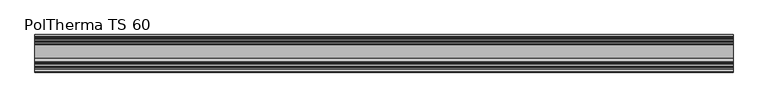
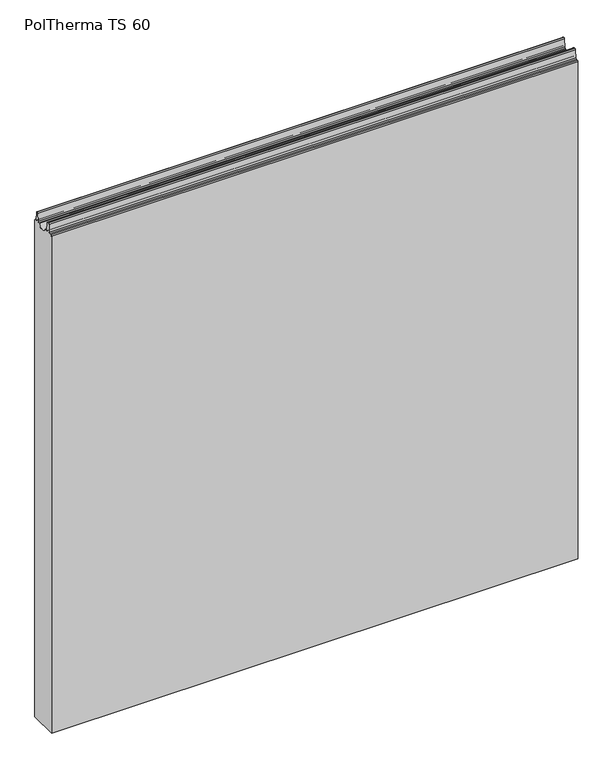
"""IFC4 building model written with IfcOpenShell, lengths in millimetres: plate geometry, Europanels_Poltherma TS_Hz : PolTherma TS 60."""

from ifc_helpers import new_model, si_unit, frame, origin, place, context, project, spatial, polyline, circle_curve, source, transform, mapped, element, save
from ifc_brep_helpers import plane_surface, cylinder_surface, revolved_surface, advanced_brep


def poltherma_ts_60_b4611f67(model_context):
    return source(origin(), model_context, "Body", "AdvancedBrep", [
        advanced_brep(
        [(550.0, -30.0, 1096.5011047), (550.0, -30.0, 0.0), (550.0, 30.0, 0.0), (550.0, 30.0, 1096.5011047), (550.0, 28.0, 1098.5011047), (550.0, 26.2557869, 1098.5011047), (550.0, 24.2596673, 1100.3765791), (550.0, 23.1836057, 1117.6256302), (550.0, 20.8891901, 1119.5129093), (550.0, 18.8727407, 1117.5838246), (550.0, 18.1120505, 1100.4152514), (550.0, 16.113894, 1098.5011047), (550.0, 13.3234285, 1098.5011047), (550.0, -7.9234285, 1098.5011047), (550.0, -11.9117672, 1098.5011047), (550.0, -13.7101357, 1100.2244834), (550.0, -14.4498501, 1117.5862394), (550.0, -16.4480373, 1119.5011047), (550.0, -19.1874198, 1119.5011047), (550.0, -21.1836192, 1117.624345), (550.0, -22.2483736, 1100.3778643), (550.0, -24.244573, 1098.5011047), (550.0, -28.0, 1098.5011047), (-550.0, -30.0, 1096.5011047), (-550.0, -28.0, 1098.5011047), (-550.0, -24.244573, 1098.5011047), (-550.0, -22.2483736, 1100.3778643), (-550.0, -21.1836192, 1117.624345), (-550.0, -19.1874198, 1119.5011047), (-550.0, -16.4480373, 1119.5011047), (-550.0, -14.4498501, 1117.5862394), (-550.0, -13.7101357, 1100.2244834), (-550.0, -11.9117672, 1098.5011047), (-550.0, -7.9234285, 1098.5011047), (-550.0, 13.3234285, 1098.5011047), (-550.0, 16.113894, 1098.5011047), (-550.0, 18.1120505, 1100.4152514), (-550.0, 18.8727407, 1117.5838246), (-550.0, 20.8891901, 1119.5129093), (-550.0, 23.1349611, 1117.6366155), (-550.0, 24.2596673, 1100.3765791), (-550.0, 26.2557869, 1098.5011047), (-550.0, 28.0, 1098.5011047), (-550.0, 30.0, 1096.5011047), (-550.0, 30.0, 0.0), (-550.0, -30.0, 0.0)],
        [
            (0, 1),
            (1, 2),
            (2, 3),
            (3, 4, circle_curve(frame((550.0, 28.0, 1096.5011047), z_axis=(1.0, 0.0, 0.0), x_axis=(0.0, 1.0, 0.0)), 2.0)),
            (4, 5),
            (5, 6, circle_curve(frame((550.0, 26.2557869, 1100.5011047), z_axis=(-1.0, 0.0, 0.0), x_axis=(0.0, 1.0, 0.0)), 2.0)),
            (6, 7),
            (7, 8, circle_curve(frame((550.0, 21.1234323, 1117.5111287), z_axis=(1.0, 0.0, 0.0), x_axis=(0.0, 1.0, 0.0)), 2.0154391)),
            (8, 9, circle_curve(frame((550.0, 20.8891901, 1117.4944815), z_axis=(1.0, 0.0, 0.0), x_axis=(0.0, 1.0, 0.0)), 2.0184277)),
            (9, 10),
            (10, 11, circle_curve(frame((550.0, 16.113894, 1100.5011047), z_axis=(-1.0, 0.0, 0.0), x_axis=(0.0, 1.0, 0.0)), 2.0)),
            (11, 12),
            (12, 13, circle_curve(frame((550.0, 2.7, 1101.354658), z_axis=(-1.0, 0.0, 0.0), x_axis=(0.0, 1.0, 0.0)), 11.0)),
            (13, 14),
            (14, 15, circle_curve(frame((550.0, -11.9117672, 1100.3011047), z_axis=(-1.0, 0.0, 0.0), x_axis=(0.0, 1.0, 0.0)), 1.8)),
            (15, 16),
            (16, 17, circle_curve(frame((550.0, -16.4480373, 1117.5011047), z_axis=(1.0, 0.0, 0.0), x_axis=(0.0, 1.0, 0.0)), 2.0)),
            (17, 18),
            (18, 19, circle_curve(frame((550.0, -19.1874198, 1117.5011047), z_axis=(1.0, 0.0, 0.0), x_axis=(0.0, 1.0, 0.0)), 2.0)),
            (19, 20),
            (20, 21, circle_curve(frame((550.0, -24.244573, 1100.5011047), z_axis=(-1.0, 0.0, 0.0), x_axis=(0.0, 1.0, 0.0)), 2.0)),
            (21, 22),
            (22, 0, circle_curve(frame((550.0, -28.0, 1096.5011047), z_axis=(1.0, 0.0, 0.0), x_axis=(0.0, 1.0, 0.0)), 2.0)),
            (23, 24, circle_curve(frame((-550.0, -28.0, 1096.5011047), z_axis=(-1.0, 0.0, 0.0), x_axis=(0.0, 1.0, 0.0)), 2.0)),
            (24, 25),
            (25, 26, circle_curve(frame((-550.0, -24.244573, 1100.5011047), z_axis=(1.0, 0.0, 0.0), x_axis=(0.0, 1.0, 0.0)), 2.0)),
            (26, 27),
            (27, 28, circle_curve(frame((-550.0, -19.1874198, 1117.5011047), z_axis=(-1.0, 0.0, 0.0), x_axis=(0.0, 1.0, 0.0)), 2.0)),
            (28, 29),
            (29, 30, circle_curve(frame((-550.0, -16.4480373, 1117.5011047), z_axis=(-1.0, 0.0, 0.0), x_axis=(0.0, 1.0, 0.0)), 2.0)),
            (30, 31),
            (31, 32, circle_curve(frame((-550.0, -11.9117672, 1100.3011047), z_axis=(1.0, 0.0, 0.0), x_axis=(0.0, 1.0, 0.0)), 1.8)),
            (32, 33),
            (33, 34, circle_curve(frame((-550.0, 2.7, 1101.354658), z_axis=(1.0, 0.0, 0.0), x_axis=(0.0, 1.0, 0.0)), 11.0)),
            (34, 35),
            (35, 36, circle_curve(frame((-550.0, 16.113894, 1100.5011047), z_axis=(1.0, 0.0, 0.0), x_axis=(0.0, 1.0, 0.0)), 2.0)),
            (36, 37),
            (37, 38, circle_curve(frame((-550.0, 20.8891901, 1117.4944815), z_axis=(-1.0, 0.0, 0.0), x_axis=(0.0, 1.0, 0.0)), 2.0184277)),
            (38, 39, circle_curve(frame((-550.0, 21.1234323, 1117.5111287), z_axis=(-1.0, 0.0, 0.0), x_axis=(0.0, 1.0, 0.0)), 2.0154391)),
            (39, 40),
            (40, 41, circle_curve(frame((-550.0, 26.2557869, 1100.5011047), z_axis=(1.0, 0.0, 0.0), x_axis=(0.0, 1.0, 0.0)), 2.0)),
            (41, 42),
            (42, 43, circle_curve(frame((-550.0, 28.0, 1096.5011047), z_axis=(-1.0, 0.0, 0.0), x_axis=(0.0, 1.0, 0.0)), 2.0)),
            (43, 44),
            (44, 45),
            (45, 23),
            (0, 23),
            (45, 1),
            (2, 44),
            (43, 3),
            (42, 4),
            (41, 5),
            (40, 6),
            (39, 7),
            (38, 8),
            (37, 9),
            (36, 10),
            (35, 11),
            (34, 12),
            (33, 13),
            (32, 14),
            (31, 15),
            (30, 16),
            (29, 17),
            (28, 18),
            (27, 19),
            (26, 20),
            (25, 21),
            (24, 22),
        ],
        [
            plane_surface(frame((550.0, -30.0, 0.0), z_axis=(1.0, 0.0, 0.0), x_axis=(0.0, 0.0, -1.0))),
            plane_surface(frame((-550.0, -30.0, 0.0), z_axis=(-1.0, 0.0, 0.0), x_axis=(0.0, 0.0, 1.0))),
            plane_surface(frame((550.0, -30.0, 1096.5011047), z_axis=(0.0, -1.0, 0.0), x_axis=(-1.0, 0.0, 0.0))),
            plane_surface(frame((550.0, 30.0, 0.0), z_axis=(0.0, 1.0, 0.0), x_axis=(-1.0, 0.0, 0.0))),
            cylinder_surface(frame((-550.0, 28.0, 1096.5011047), z_axis=(1.0, 0.0, 0.0), x_axis=(0.0, 1.0, 0.0)), 2.0),
            plane_surface(frame((550.0, 28.0, 1098.5011047), z_axis=(0.0, 1.862502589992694e-12, 1.0), x_axis=(-1.0, 0.0, 0.0))),
            revolved_surface(polyline([(-550.0, 28.2557869, 1100.5011047), (550.0, 28.2557869, 1100.5011047)]), (-550.0, 26.2557869, 1100.5011047), (-1.0, 0.0, 0.0)),
            plane_surface(frame((550.0, 24.2596673, 1100.3765791), z_axis=(0.0, 0.9980597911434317, 0.06226277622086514), x_axis=(-1.0, 0.0, 0.0))),
            cylinder_surface(frame((-550.0, 21.1234323, 1117.5111287), z_axis=(1.0, 0.0, 0.0), x_axis=(0.0, 1.0, 0.0)), 2.0154391),
            cylinder_surface(frame((-550.0, 20.8891901, 1117.4944815), z_axis=(1.0, 0.0, 0.0), x_axis=(0.0, 1.0, 0.0)), 2.0184277),
            plane_surface(frame((550.0, 18.8727407, 1117.5838246), z_axis=(0.0, -0.9990198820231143, 0.04426370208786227), x_axis=(-1.0, 0.0, 0.0))),
            revolved_surface(polyline([(-550.0, 18.113894, 1100.5011047), (550.0, 18.113894, 1100.5011047)]), (-550.0, 16.113894, 1100.5011047), (-1.0, 0.0, 0.0)),
            plane_surface(frame((550.0, 16.113894, 1098.5011047), z_axis=(0.0, 0.0, 1.0), x_axis=(-1.0, 0.0, 0.0))),
            revolved_surface(polyline([(-550.0, 13.7, 1101.354658), (550.0, 13.7, 1101.354658)]), (-550.0, 2.7, 1101.354658), (-1.0, 0.0, 0.0)),
            plane_surface(frame((550.0, -7.9234285, 1098.5011047), z_axis=(0.0, 0.0, 1.0), x_axis=(-1.0, 0.0, 0.0))),
            revolved_surface(polyline([(-550.0, -10.1117672, 1100.3011047), (550.0, -10.1117672, 1100.3011047)]), (-550.0, -11.9117672, 1100.3011047), (-1.0, 0.0, 0.0)),
            plane_surface(frame((550.0, -13.7101357, 1100.2244834), z_axis=(0.0, 0.9990935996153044, 0.04256734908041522), x_axis=(-1.0, 0.0, 0.0))),
            cylinder_surface(frame((-550.0, -16.4480373, 1117.5011047), z_axis=(1.0, 0.0, 0.0), x_axis=(0.0, 1.0, 0.0)), 2.0),
            plane_surface(frame((550.0, -16.4480373, 1119.5011047), z_axis=(0.0, 0.0, 1.0), x_axis=(-1.0, 0.0, 0.0))),
            cylinder_surface(frame((-550.0, -19.1874198, 1117.5011047), z_axis=(1.0, 0.0, 0.0), x_axis=(0.0, 1.0, 0.0)), 2.0),
            plane_surface(frame((550.0, -21.1836192, 1117.624345), z_axis=(0.0, -0.9980996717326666, 0.06162016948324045), x_axis=(-1.0, 0.0, 0.0))),
            revolved_surface(polyline([(-550.0, -22.244573, 1100.5011047), (550.0, -22.244573, 1100.5011047)]), (-550.0, -24.244573, 1100.5011047), (-1.0, 0.0, 0.0)),
            plane_surface(frame((550.0, -24.244573, 1098.5011047), z_axis=(0.0, 0.0, 1.0), x_axis=(-1.0, 0.0, 0.0))),
            cylinder_surface(frame((-550.0, -28.0, 1096.5011047), z_axis=(1.0, 0.0, 0.0), x_axis=(0.0, 1.0, 0.0)), 2.0),
            plane_surface(frame((550.0, -30.0, 0.0), z_axis=(0.0, 0.0, -1.0), x_axis=(-1.0, 0.0, 0.0))),
        ],
        [
            (0, [[1, 2, 3, 4, 5, 6, 7, 8, 9, 10, 11, 12, 13, 14, 15, 16, 17, 18, 19, 20, 21, 22, 23]]),
            (1, [[24, 25, 26, 27, 28, 29, 30, 31, 32, 33, 34, 35, 36, 37, 38, 39, 40, 41, 42, 43, 44, 45, 46]]),
            (2, [[-1, 47, -46, 48]]),
            (3, [[-3, 49, -44, 50]]),
            (4, [[-4, -50, -43, 51]]),
            (5, [[-5, -51, -42, 52]]),
            (6, [[-6, -52, -41, 53]]),
            (7, [[-7, -53, -40, 54]]),
            (8, [[-8, -54, -39, 55]]),
            (9, [[-9, -55, -38, 56]]),
            (10, [[-10, -56, -37, 57]]),
            (11, [[-11, -57, -36, 58]]),
            (12, [[-12, -58, -35, 59]]),
            (13, [[-13, -59, -34, 60]]),
            (14, [[-14, -60, -33, 61]]),
            (15, [[-15, -61, -32, 62]]),
            (16, [[-16, -62, -31, 63]]),
            (17, [[-17, -63, -30, 64]]),
            (18, [[-18, -64, -29, 65]]),
            (19, [[-19, -65, -28, 66]]),
            (20, [[-20, -66, -27, 67]]),
            (21, [[-21, -67, -26, 68]]),
            (22, [[-22, -68, -25, 69]]),
            (23, [[-23, -69, -24, -47]]),
            (24, [[-2, -48, -45, -49]]),
        ],
    ),
    ])


if __name__ == "__main__":
    model = new_model("IFC4")
    model_context = context("Model", 3, world=origin())
    ifc_project = project(units=[si_unit("LENGTHUNIT", "METRE", prefix="MILLI")], contexts=[model_context])
    site = spatial("IfcSite", under=ifc_project)
    building = spatial("IfcBuilding", under=site)
    placement = place(None, origin())
    poltherma_ts_60_shape = poltherma_ts_60_b4611f67(model_context)
    element("IfcPlate", 1, ObjectType="Europanels_Poltherma TS_Hz : PolTherma TS 60", at=placement, inside=building, context=model_context, shape_type="MappedRepresentation", body=[
        mapped(poltherma_ts_60_shape, transform((0.0, 0.0, 0.0), x_axis=(1.0, 0.0, 0.0), y_axis=(0.0, 1.0, 0.0), z_axis=(0.0, 0.0, 1.0))),
    ])
    save(model, "model.ifc")
